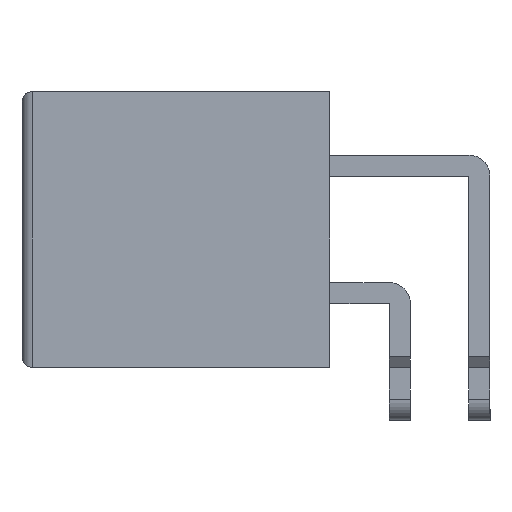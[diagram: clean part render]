
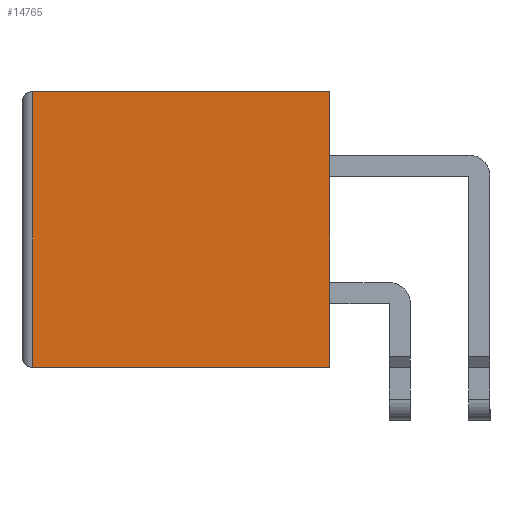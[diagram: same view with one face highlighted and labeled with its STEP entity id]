
A CAD part, left-side view. The second image highlights one B-rep face of the part: STEP entity #14765.
In plain terms, the highlighted planar face has unit normal (-1, 0, 0).
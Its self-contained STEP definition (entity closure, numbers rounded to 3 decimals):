
#2451=VERTEX_POINT('',#24132);
#2452=VERTEX_POINT('',#24136);
#2456=VERTEX_POINT('',#24148);
#2457=VERTEX_POINT('',#24154);
#3918=VECTOR('',#18314,1.);
#3922=VECTOR('',#18325,1.);
#3926=VECTOR('',#18330,1.);
#3927=VECTOR('',#18331,1.);
#5399=LINE('',#24135,#3918);
#5403=LINE('',#24147,#3922);
#5407=LINE('',#24153,#3926);
#5408=LINE('',#24155,#3927);
#7650=EDGE_CURVE('',#2452,#2451,#5399,.T.);
#7656=EDGE_CURVE('',#2456,#2451,#5403,.T.);
#7660=EDGE_CURVE('',#2452,#2457,#5407,.T.);
#7661=EDGE_CURVE('',#2457,#2456,#5408,.T.);
#12029=ORIENTED_EDGE('',*,*,#7650,.F.);
#12030=ORIENTED_EDGE('',*,*,#7660,.T.);
#12031=ORIENTED_EDGE('',*,*,#7661,.T.);
#12032=ORIENTED_EDGE('',*,*,#7656,.T.);
#13056=EDGE_LOOP('',(#12029,#12030,#12031,#12032));
#13938=FACE_BOUND('',#13056,.T.);
#14765=ADVANCED_FACE('',(#13938),#24642,.F.);
#15620=AXIS2_PLACEMENT_3D('',#24152,#18329,$);
#18314=DIRECTION('',(0.,0.,1.));
#18325=DIRECTION('',(0.,1.,0.));
#18329=DIRECTION('',(1.,0.,0.));
#18330=DIRECTION('',(0.,-1.,0.));
#18331=DIRECTION('',(0.,0.,1.));
#24132=CARTESIAN_POINT('',(0.,28.,0.));
#24135=CARTESIAN_POINT('',(0.,28.,-13.));
#24136=CARTESIAN_POINT('',(0.,28.,-26.));
#24147=CARTESIAN_POINT('',(0.,0.,0.));
#24148=CARTESIAN_POINT('',(0.,0.,0.));
#24152=CARTESIAN_POINT('',(0.,14.5,-13.));
#24153=CARTESIAN_POINT('',(0.,29.,-26.));
#24154=CARTESIAN_POINT('',(0.,0.,-26.));
#24155=CARTESIAN_POINT('',(0.,0.,-26.));
#24642=PLANE('',#15620);
